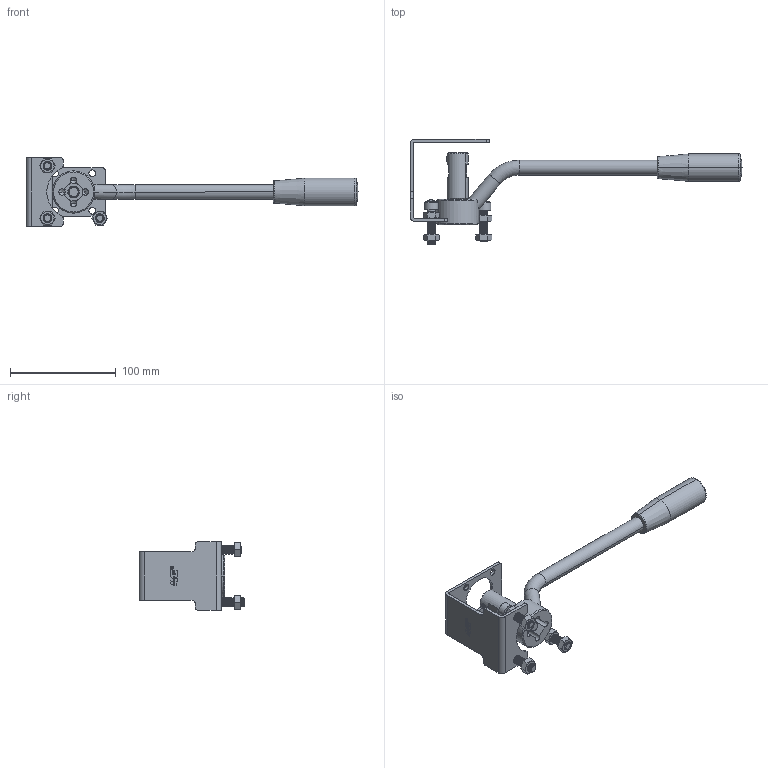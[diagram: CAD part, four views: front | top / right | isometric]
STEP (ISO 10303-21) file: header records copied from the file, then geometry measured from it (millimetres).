
FILE_DESCRIPTION((''),'2;1');
FILE_NAME('PARTE_VUOTA','2022-04-29T16:57:07',('alfio.taboni'),('CDM Tecnoconsulting'),'CREO PARAMETRIC BY PTC INC, 2020053','CREO PARAMETRIC BY PTC INC, 2020053','');
FILE_SCHEMA(('CONFIG_CONTROL_DESIGN','SHAPE_APPEARANCE_LAYERS_GROUPS'));
Length unit declared in the file: millimetre
Products named in the file (1): PARTE_VUOTA
Bounding box: 314 x 100 x 65 mm (x, y, z)
Volume: 133706.9 mm3; surface area: 54918.4 mm2
Topology: 3 solids, 4 shells, 769 faces, 2053 edges, 1314 vertices
Faces by surface type: plane 308, cylinder 200, bspline 99, cone 95, extrusion 55, torus 10, sphere 2
Entity records: 53363 total; most frequent: CARTESIAN_POINT 29359, ORIENTED_EDGE 4078, DIRECTION 2915, PRESENTATION_STYLE_ASSIGNMENT 2054, STYLED_ITEM 2042, CURVE_STYLE 2039, EDGE_CURVE 2039, VERTEX_POINT 1314
